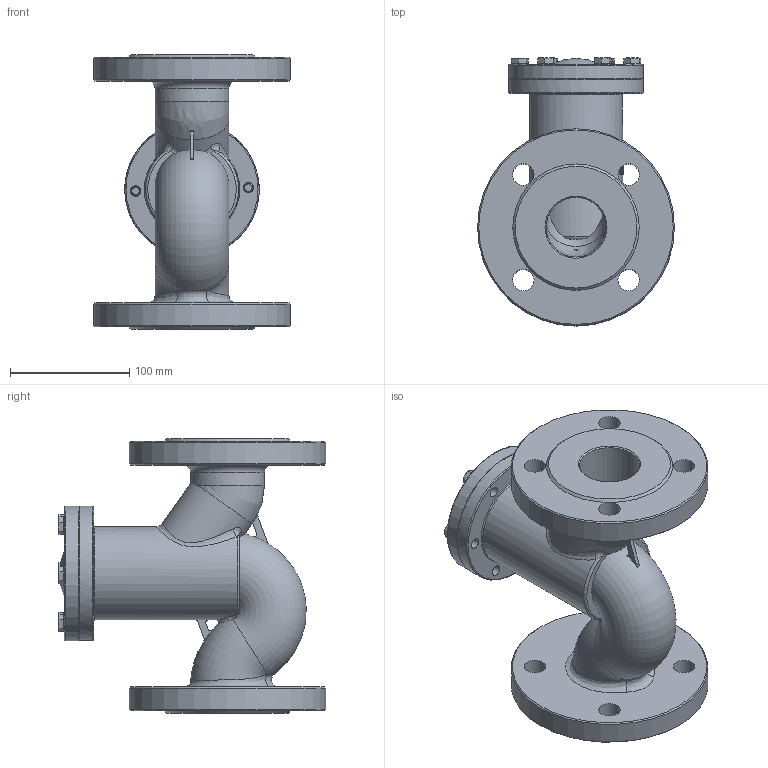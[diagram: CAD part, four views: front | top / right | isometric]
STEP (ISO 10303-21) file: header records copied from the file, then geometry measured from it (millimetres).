
FILE_DESCRIPTION(('STEP AP214'), '1');
FILE_NAME('VCR3131-F 孰囡囗 钺疣蝽 DN.ru 捏50 畜40', '', ('UNSPECIFIED'), ('UNSPECIFIED'), 'C3D Converter', 'C3D Toolkit', '');
FILE_SCHEMA(('AUTOMOTIVE_DESIGN { 1 0 10303 214 3 1 1}'));
Length unit declared in the file: millimetre
Products named in the file (1): VCR3131-F
Bounding box: 165 x 224.5 x 230 mm (x, y, z)
Volume: 6807.1 mm3; surface area: 253140.9 mm2
Topology: 5 solids, 6 shells, 333 faces, 799 edges, 500 vertices
Faces by surface type: plane 169, cylinder 55, cone 50, bspline 46, torus 12, sphere 1
Full cylindrical faces by diameter (mm): 8 x6, 8.751 x12, 13 x6, 15 x1, 18 x8, 50 x3, 62 x2, 78.072 x1, 112.753 x2, 165 x2
Entity records: 20694 total; most frequent: CARTESIAN_POINT 11937, ORIENTED_EDGE 1459, DIRECTION 1329, EDGE_CURVE 730, AXIS2_PLACEMENT_3D 548, VERTEX_POINT 499, EDGE_LOOP 468, FACE_BOUND 388
